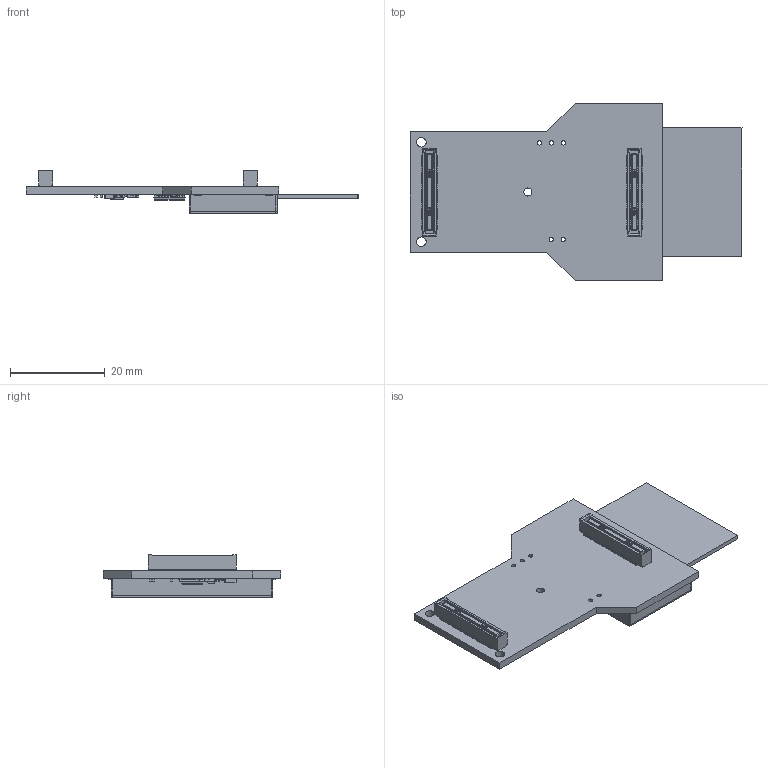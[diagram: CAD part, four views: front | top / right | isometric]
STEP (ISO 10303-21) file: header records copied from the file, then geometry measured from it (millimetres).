
FILE_DESCRIPTION(('Open CASCADE Model'),'2;1');
FILE_NAME('Open CASCADE Shape Model','2024-09-12T10:40:17',('Author'),( 'Open CASCADE'),'Open CASCADE STEP processor 7.5','Open CASCADE 7.5' ,'Unknown');
FILE_SCHEMA(('AUTOMOTIVE_DESIGN { 1 0 10303 214 1 1 1 1 }'));
Length unit declared in the file: millimetre
Products named in the file (127): PCB; Board; Open CASCADE STEP translator 7.5 1.1.1; U5; CircuitWorks-SOT-23-5; U3; User Library-TSSOP-20; U1; DCU150 PCB with Board_Outline; Open CASCADE STEP translator 7.5 8.1.1; C14; 7302293888; Extruded; 7302295888; Y1; 9381084176; X1; 9381085456; R3; 11344381936; 11344381696; R2; R1; Q1; 9381085296; C17; C16; C15; C13; 7302295728; C12; C11; C10; C9; C8; C7; C6; 9381085056; 9381084816; C5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
Assembly tree (215 placements, depth 6):
  PCB
    Board
      Open CASCADE STEP translator 7.5 1.1.1
    U5
      CircuitWorks-SOT-23-5
    U3
      User Library-TSSOP-20
    U1
      DCU150 PCB with Board_Outline
        Board
          Open CASCADE STEP translator 7.5 8.1.1
        C14
          7302293888  x2
            Extruded
          7302295888
            Extruded
        Y1
          9381084176
            Extruded
        X1
          9381085456
            Extruded
        R3
          11344381936  x2
            Extruded
          11344381696
            Extruded
        R2
          11344381696
            Extruded
          11344381936  x2
            Extruded
        R1
          11344381696
            Extruded
          11344381936  x2
            Extruded
        Q1
          9381085296
            Extruded
        C17
          7302293888  x2
            Extruded
          7302295888
            Extruded
        C16
          7302295888
            Extruded
          7302293888  x2
            Extruded
        C15
          7302295888
            Extruded
          7302293888  x2
            Extruded
        C13
          7302295888
            Extruded
          7302295728  x2
            Extruded
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Bounding box: 70.1 x 37.5 x 9.02 mm (x, y, z)
Volume: 3941.7 mm3; surface area: 8337.7 mm2
Topology: 193 solids, 193 shells, 6891 faces, 17601 edges, 11201 vertices
Faces by surface type: plane 4278, cylinder 1967, bspline 588, sphere 34, cone 24
Full cylindrical faces by diameter (mm): 0.9 x5, 1.7 x1, 2 x2
Entity records: 87646 total; most frequent: CARTESIAN_POINT 16052, DIRECTION 14209, ORIENTED_EDGE 14074, EDGE_CURVE 7037, LINE 5169, VECTOR 5169, VERTEX_POINT 4617, AXIS2_PLACEMENT_3D 4520
